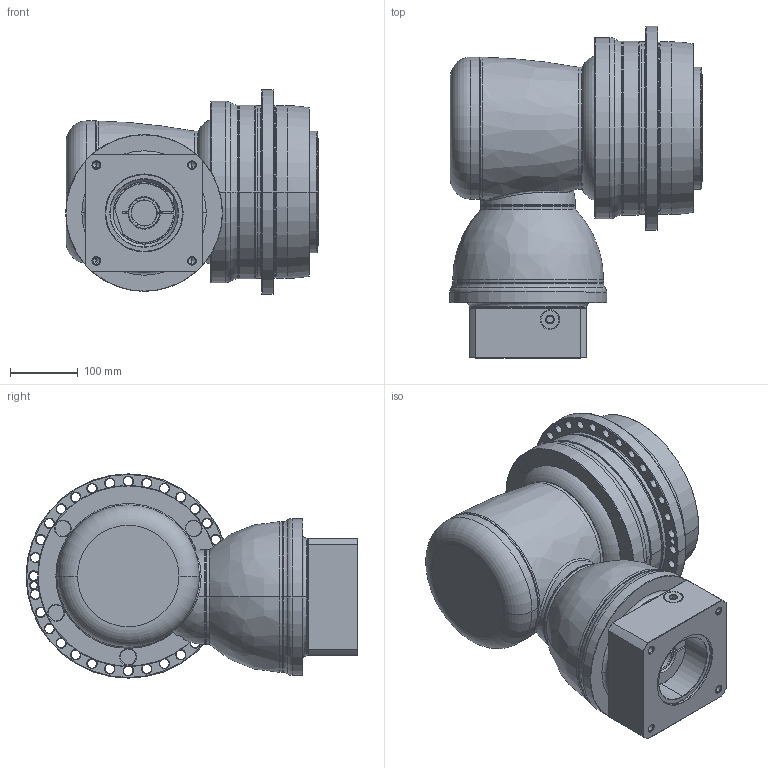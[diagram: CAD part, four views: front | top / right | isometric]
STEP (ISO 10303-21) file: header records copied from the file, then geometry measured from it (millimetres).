
FILE_DESCRIPTION((''),'2;1');
FILE_NAME('APK255_2ST_38-P0409910201_ASM','2018-06-14T',('D00080'),(''),'PRO/ENGINEER BY PARAMETRIC TECHNOLOGY CORPORATION, 2008170','PRO/ENGINEER BY PARAMETRIC TECHNOLOGY CORPORATION, 2008170','');
FILE_SCHEMA(('CONFIG_CONTROL_DESIGN'));
Length unit declared in the file: millimetre
Products named in the file (13): P1008600002; P1802710001; P0278701003; P0359701103; P1211700001; P1315600001; P1007601001; P1318610201; P0503900012; P0912652001; P0409910201; 21711422019; APK255_2ST_38-P0409910201_ASM
Assembly tree (12 placements, depth 2):
  APK255_2ST_38-P0409910201_ASM
    P1008600002
    P1802710001
    P0278701003
    P0359701103
    P1211700001
    P1315600001
    P1007601001
    P1318610201
    P0503900012
    P0912652001
    P0409910201
    21711422019
Bounding box: 373.5 x 490.5 x 302 mm (x, y, z)
Volume: 22066835.5 mm3; surface area: 1430061.9 mm2
Topology: 13 solids, 36 shells, 860 faces, 2015 edges, 1213 vertices
Faces by surface type: cylinder 341, cone 266, plane 136, torus 84, bspline 31, sphere 2
Entity records: 31292 total; most frequent: CARTESIAN_POINT 10816, DIRECTION 4721, ORIENTED_EDGE 3860, AXIS2_PLACEMENT_3D 2024, EDGE_CURVE 1977, VERTEX_POINT 1213, CIRCLE 1158, EDGE_LOOP 1014
